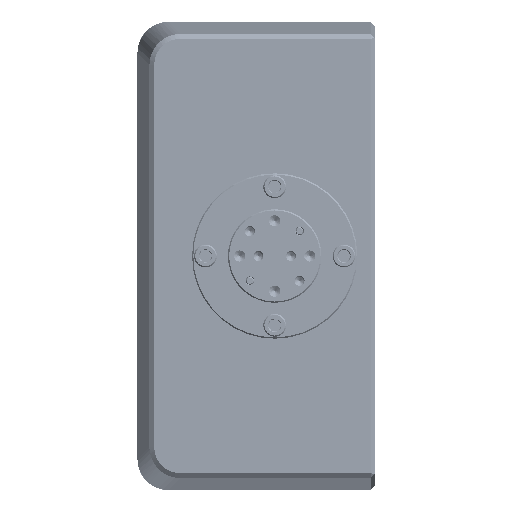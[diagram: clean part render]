
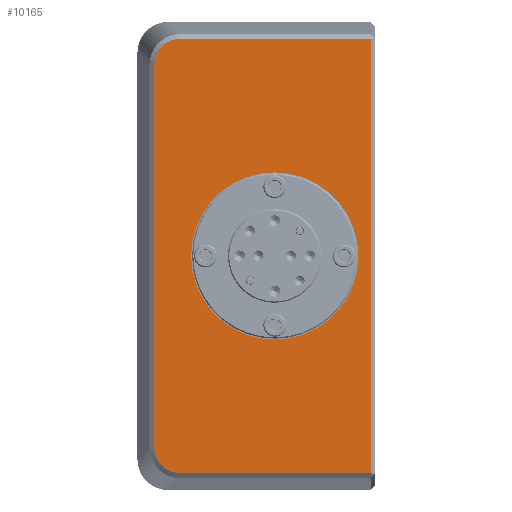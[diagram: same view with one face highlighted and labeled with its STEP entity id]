
A CAD part, left-side view. The second image highlights one B-rep face of the part: STEP entity #10165.
In plain terms, the highlighted planar face has unit normal (-1, 0, 0).
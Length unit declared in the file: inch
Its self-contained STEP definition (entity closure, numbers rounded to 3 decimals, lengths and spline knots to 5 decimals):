
#2578 = CARTESIAN_POINT ( 'NONE',  ( -0.753, 0.95, -1.74008 ) ) ;
#6474 = FACE_BOUND ( 'NONE', #99667, .T. ) ;
#7172 = AXIS2_PLACEMENT_3D ( 'NONE', #222772, #201100, #111744 ) ;
#9932 = ORIENTED_EDGE ( 'NONE', *, *, #133047, .F. ) ;
#10165 = ADVANCED_FACE ( 'NONE', ( #29537, #6474 ), #253545, .F. ) ;
#10529 = CARTESIAN_POINT ( 'NONE',  ( -0.753, 1.66162, 1.71385 ) ) ;
#13287 = CARTESIAN_POINT ( 'NONE',  ( -0.753, 1.66162, -1.71384 ) ) ;
#28406 = EDGE_CURVE ( 'NONE', #161061, #178355, #200224, .T. ) ;
#29537 = FACE_OUTER_BOUND ( 'NONE', #197077, .T. ) ;
#30179 = CARTESIAN_POINT ( 'NONE',  ( -0.753, 0.8, 0. ) ) ;
#35140 = VECTOR ( 'NONE', #133306, 39.37008 ) ;
#40607 = CARTESIAN_POINT ( 'NONE',  ( -0.753, 0.95, 1.74008 ) ) ;
#44196 = VECTOR ( 'NONE', #178008, 39.37008 ) ;
#45880 = CARTESIAN_POINT ( 'NONE',  ( -0.753, 1.76508, 1.5587 ) ) ;
#52739 = CIRCLE ( 'NONE', #75086, 0.67 ) ;
#53670 = CARTESIAN_POINT ( 'NONE',  ( -0.753, 1.55616, 1.74008 ) ) ;
#54866 = VECTOR ( 'NONE', #107471, 39.37008 ) ;
#58050 = ORIENTED_EDGE ( 'NONE', *, *, #96490, .T. ) ;
#59244 = CARTESIAN_POINT ( 'NONE',  ( -0.753, 1.73885, -1.63662 ) ) ;
#60058 = VERTEX_POINT ( 'NONE', #105622 ) ;
#60773 = CARTESIAN_POINT ( 'NONE',  ( -0.753, 1.72336, 1.65986 ) ) ;
#61028 = CARTESIAN_POINT ( 'NONE',  ( -0.753, 0.03, 1.74008 ) ) ;
#62114 = LINE ( 'NONE', #40607, #84634 ) ;
#62258 = CARTESIAN_POINT ( 'NONE',  ( -0.753, 1.76508, -1.53116 ) ) ;
#74623 = DIRECTION ( 'NONE',  ( -1., 0., 0. ) ) ;
#75086 = AXIS2_PLACEMENT_3D ( 'NONE', #30179, #74623, #116339 ) ;
#80676 = DIRECTION ( 'NONE',  ( 0., 0., -1. ) ) ;
#81768 = EDGE_CURVE ( 'NONE', #83532, #97784, #62114, .T. ) ;
#83532 = VERTEX_POINT ( 'NONE', #61028 ) ;
#84634 = VECTOR ( 'NONE', #194527, 39.37008 ) ;
#85102 = EDGE_CURVE ( 'NONE', #60058, #202416, #247177, .T. ) ;
#87863 = ORIENTED_EDGE ( 'NONE', *, *, #254091, .T. ) ;
#96490 = EDGE_CURVE ( 'NONE', #126959, #60058, #205089, .T. ) ;
#97784 = VERTEX_POINT ( 'NONE', #189757 ) ;
#99667 = EDGE_LOOP ( 'NONE', ( #9932, #243311 ) ) ;
#100907 = CARTESIAN_POINT ( 'NONE',  ( -0.753, 1.61115, -1.73465 ) ) ;
#103760 = CARTESIAN_POINT ( 'NONE',  ( -0.753, 1.72336, -1.65985 ) ) ;
#105622 = CARTESIAN_POINT ( 'NONE',  ( -0.753, 1.55616, -1.74008 ) ) ;
#107471 = DIRECTION ( 'NONE',  ( 0., 0., 1. ) ) ;
#111744 = DIRECTION ( 'NONE',  ( 0., 0., 1. ) ) ;
#116339 = DIRECTION ( 'NONE',  ( 0., 0., 1. ) ) ;
#117013 = ORIENTED_EDGE ( 'NONE', *, *, #81768, .T. ) ;
#121117 = CARTESIAN_POINT ( 'NONE',  ( -0.753, 1.76508, -1.53116 ) ) ;
#122527 = CARTESIAN_POINT ( 'NONE',  ( -0.753, 1.75964, -1.58614 ) ) ;
#123971 = CARTESIAN_POINT ( 'NONE',  ( -0.753, 1.55616, -1.74008 ) ) ;
#126959 = VERTEX_POINT ( 'NONE', #62258 ) ;
#128092 = CARTESIAN_POINT ( 'NONE',  ( -0.753, 0.95, 0. ) ) ;
#130560 = CARTESIAN_POINT ( 'NONE',  ( -0.753, 0.03, -1.74008 ) ) ;
#130855 = AXIS2_PLACEMENT_3D ( 'NONE', #128092, #216058, #80676 ) ;
#133047 = EDGE_CURVE ( 'NONE', #178355, #161061, #52739, .T. ) ;
#133306 = DIRECTION ( 'NONE',  ( 0., 0., -1. ) ) ;
#136584 = ORIENTED_EDGE ( 'NONE', *, *, #85102, .T. ) ;
#141345 = CARTESIAN_POINT ( 'NONE',  ( -0.753, 1.58364, 1.74008 ) ) ;
#154790 = CARTESIAN_POINT ( 'NONE',  ( -0.753, 1.76508, 0. ) ) ;
#154859 = CARTESIAN_POINT ( 'NONE',  ( -0.753, 0.03, 0. ) ) ;
#160037 = CARTESIAN_POINT ( 'NONE',  ( -0.753, 0.8, -0.67 ) ) ;
#161061 = VERTEX_POINT ( 'NONE', #160037 ) ;
#163597 = EDGE_CURVE ( 'NONE', #202416, #83532, #176537, .T. ) ;
#171499 = CARTESIAN_POINT ( 'NONE',  ( -0.753, 1.73884, 1.63662 ) ) ;
#176468 = LINE ( 'NONE', #154790, #35140 ) ;
#176537 = LINE ( 'NONE', #154859, #54866 ) ;
#178008 = DIRECTION ( 'NONE',  ( 0., -1., 0. ) ) ;
#178355 = VERTEX_POINT ( 'NONE', #238132 ) ;
#187160 = ORIENTED_EDGE ( 'NONE', *, *, #163597, .T. ) ;
#188811 = CARTESIAN_POINT ( 'NONE',  ( -0.753, 1.5837, -1.74008 ) ) ;
#188832 = VERTEX_POINT ( 'NONE', #243043 ) ;
#189757 = CARTESIAN_POINT ( 'NONE',  ( -0.753, 1.55616, 1.74008 ) ) ;
#191683 = CARTESIAN_POINT ( 'NONE',  ( -0.753, 1.68486, -1.69836 ) ) ;
#194527 = DIRECTION ( 'NONE',  ( 0., 1., 0. ) ) ;
#197077 = EDGE_LOOP ( 'NONE', ( #58050, #136584, #187160, #117013, #254772, #87863 ) ) ;
#197155 = B_SPLINE_CURVE_WITH_KNOTS ( 'NONE', 3,
 ( #53670, #141345, #207713, #10529, #266157, #60773, #171499, #279599, #45880, #236411 ),
 .UNSPECIFIED., .F., .F.,
 ( 4, 2, 2, 2, 4 ),
 ( 0., 0.25, 0.5, 0.75, 1. ),
 .UNSPECIFIED. ) ;
#200224 = CIRCLE ( 'NONE', #7172, 0.67 ) ;
#201100 = DIRECTION ( 'NONE',  ( -1., 0., 0. ) ) ;
#202416 = VERTEX_POINT ( 'NONE', #130560 ) ;
#205089 = B_SPLINE_CURVE_WITH_KNOTS ( 'NONE', 3,
 ( #121117, #232043, #122527, #59244, #103760, #191683, #13287, #100907, #188811, #123971 ),
 .UNSPECIFIED., .F., .F.,
 ( 4, 2, 2, 2, 4 ),
 ( 0., 0.25, 0.5, 0.75, 1. ),
 .UNSPECIFIED. ) ;
#207713 = CARTESIAN_POINT ( 'NONE',  ( -0.753, 1.61114, 1.73464 ) ) ;
#216058 = DIRECTION ( 'NONE',  ( 1., 0., 0. ) ) ;
#222772 = CARTESIAN_POINT ( 'NONE',  ( -0.753, 0.8, 0. ) ) ;
#224760 = EDGE_CURVE ( 'NONE', #97784, #188832, #197155, .T. ) ;
#232043 = CARTESIAN_POINT ( 'NONE',  ( -0.753, 1.76508, -1.55864 ) ) ;
#236411 = CARTESIAN_POINT ( 'NONE',  ( -0.753, 1.76508, 1.53116 ) ) ;
#238132 = CARTESIAN_POINT ( 'NONE',  ( -0.753, 0.8, 0.67 ) ) ;
#243043 = CARTESIAN_POINT ( 'NONE',  ( -0.753, 1.76508, 1.53116 ) ) ;
#243311 = ORIENTED_EDGE ( 'NONE', *, *, #28406, .F. ) ;
#247177 = LINE ( 'NONE', #2578, #44196 ) ;
#253545 = PLANE ( 'NONE',  #130855 ) ;
#254091 = EDGE_CURVE ( 'NONE', #188832, #126959, #176468, .T. ) ;
#254772 = ORIENTED_EDGE ( 'NONE', *, *, #224760, .T. ) ;
#266157 = CARTESIAN_POINT ( 'NONE',  ( -0.753, 1.68485, 1.69836 ) ) ;
#279599 = CARTESIAN_POINT ( 'NONE',  ( -0.753, 1.75965, 1.58615 ) ) ;
